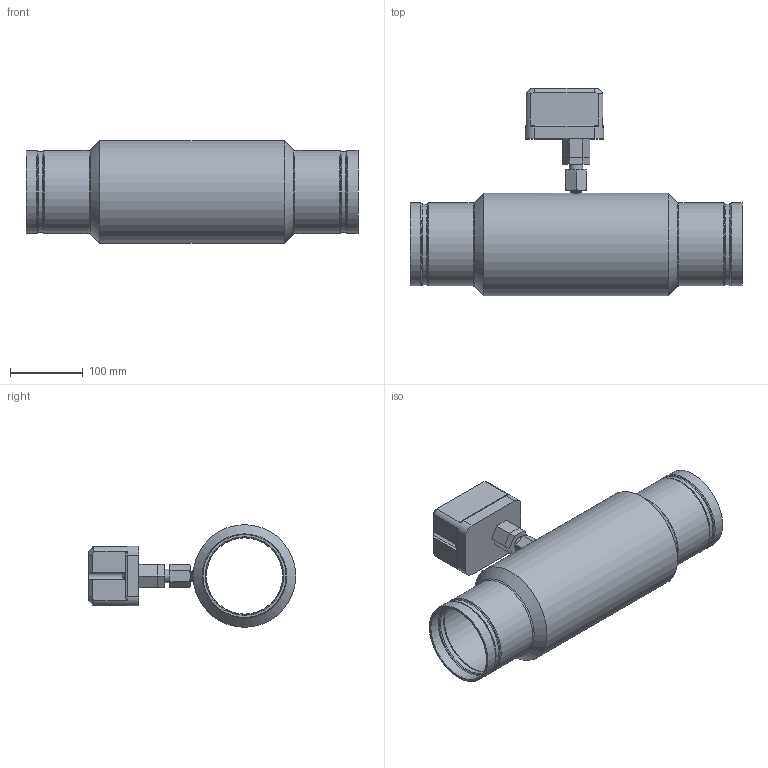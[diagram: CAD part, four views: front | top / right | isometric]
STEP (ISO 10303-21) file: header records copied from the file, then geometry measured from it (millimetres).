
FILE_DESCRIPTION(/* description */ (''),/* implementation_level */ '2;1');
FILE_NAME(/* name */ 'C:\Users\myoung\Box\ECS CAD Library\ECS Products\ILD-X Inline Detector\Export\ILD-4B10.stp',/* time_stamp */ '2020-05-06T11:11:01-05:00',/* author */ ('myoung'),/* organization */ (''),/* preprocessor_version */ 'ST-DEVELOPER v18',/* originating_system */ 'Autodesk Inventor 2020',/* authorisation */ '');
FILE_SCHEMA (('AUTOMOTIVE_DESIGN { 1 0 10303 214 3 1 1 }'));
Length unit declared in the file: inch
Products named in the file (1): ILD-4B10
Bounding box: 457.2 x 285.83 x 141.3 mm (x, y, z)
Volume: 2566990.8 mm3; surface area: 405080.5 mm2
Topology: 3 solids, 3 shells, 169 faces, 451 edges, 298 vertices
Faces by surface type: plane 63, cone 42, cylinder 30, torus 22, bspline 12
Full cylindrical faces by diameter (mm): 1.524 x2, 7.112 x1, 7.62 x2, 10.719 x1, 12.359 x1, 19.05 x1, 105.004 x2, 108.204 x3, 111.1 x2, 114.3 x4, 141.3 x1
Entity records: 16012 total; most frequent: CARTESIAN_POINT 11634, ORIENTED_EDGE 902, DIRECTION 843, EDGE_CURVE 451, AXIS2_PLACEMENT_3D 338, VERTEX_POINT 298, EDGE_LOOP 183, CIRCLE 175
